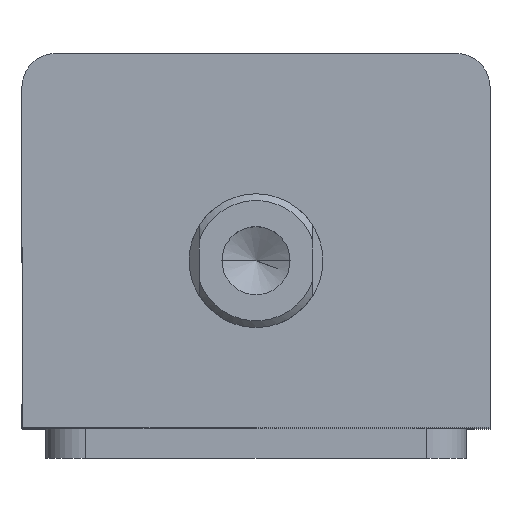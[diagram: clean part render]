
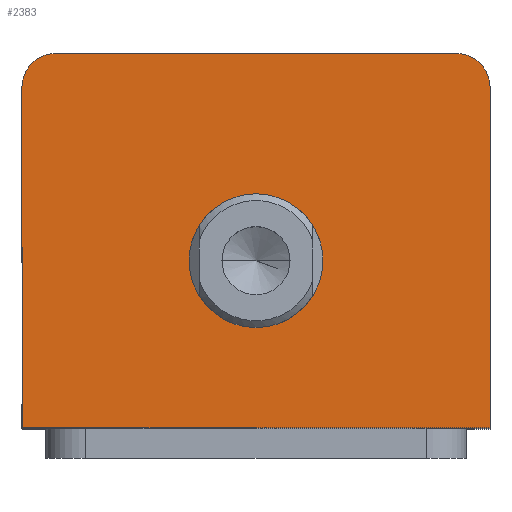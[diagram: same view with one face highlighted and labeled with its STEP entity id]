
A CAD part, top view. The second image highlights one B-rep face of the part: STEP entity #2383.
In plain terms, the highlighted planar face has unit normal (0, 0, 1).
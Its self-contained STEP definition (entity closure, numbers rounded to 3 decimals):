
#100 = ORIENTED_EDGE ( 'NONE', *, *, #1601, .T. ) ;
#101 = ORIENTED_EDGE ( 'NONE', *, *, #1750, .T. ) ;
#102 = ORIENTED_EDGE ( 'NONE', *, *, #1763, .T. ) ;
#103 = ORIENTED_EDGE ( 'NONE', *, *, #1626, .T. ) ;
#104 = ORIENTED_EDGE ( 'NONE', *, *, #1551, .T. ) ;
#105 = ORIENTED_EDGE ( 'NONE', *, *, #1791, .T. ) ;
#106 = ORIENTED_EDGE ( 'NONE', *, *, #1558, .F. ) ;
#107 = ORIENTED_EDGE ( 'NONE', *, *, #1748, .F. ) ;
#309 = VERTEX_POINT ( 'NONE', #2431 ) ;
#311 = VERTEX_POINT ( 'NONE', #2429 ) ;
#438 = AXIS2_PLACEMENT_3D ( 'NONE', #2228, #2210, #2209 ) ;
#498 = AXIS2_PLACEMENT_3D ( 'NONE', #1181, #1180, #1179 ) ;
#558 = CIRCLE ( 'NONE', #1697, 10. ) ;
#619 = LINE ( 'NONE', #1416, #625 ) ;
#625 = VECTOR ( 'NONE', #1424, 1000. ) ;
#660 = LINE ( 'NONE', #1317, #662 ) ;
#662 = VECTOR ( 'NONE', #1316, 1000. ) ;
#731 = LINE ( 'NONE', #873, #738 ) ;
#733 = CIRCLE ( 'NONE', #1650, 10. ) ;
#738 = VECTOR ( 'NONE', #907, 1000. ) ;
#755 = CIRCLE ( 'NONE', #498, 5. ) ;
#798 = LINE ( 'NONE', #1090, #800 ) ;
#800 = VECTOR ( 'NONE', #1087, 1000. ) ;
#873 = CARTESIAN_POINT ( 'NONE',  ( -35., 28., 109. ) ) ;
#885 = DIRECTION ( 'NONE',  ( 1., 0., 0. ) ) ;
#886 = DIRECTION ( 'NONE',  ( 0., 0., 1. ) ) ;
#888 = CARTESIAN_POINT ( 'NONE',  ( 0., -3., 109. ) ) ;
#907 = DIRECTION ( 'NONE',  ( 0., -1., 0. ) ) ;
#1087 = DIRECTION ( 'NONE',  ( 0., 1., 0. ) ) ;
#1090 = CARTESIAN_POINT ( 'NONE',  ( 35., 28., 109. ) ) ;
#1179 = DIRECTION ( 'NONE',  ( 1., 0., 0. ) ) ;
#1180 = DIRECTION ( 'NONE',  ( 0., 0., 1. ) ) ;
#1181 = CARTESIAN_POINT ( 'NONE',  ( -30., 23., 109. ) ) ;
#1316 = DIRECTION ( 'NONE',  ( -1., 0., 0. ) ) ;
#1317 = CARTESIAN_POINT ( 'NONE',  ( -35., 28., 109. ) ) ;
#1416 = CARTESIAN_POINT ( 'NONE',  ( -35., -28., 109. ) ) ;
#1424 = DIRECTION ( 'NONE',  ( 1., 0., 0. ) ) ;
#1485 = DIRECTION ( 'NONE',  ( 1., 0., 0. ) ) ;
#1486 = DIRECTION ( 'NONE',  ( 0., 0., 1. ) ) ;
#1487 = CARTESIAN_POINT ( 'NONE',  ( 0., -3., 109. ) ) ;
#1508 = DIRECTION ( 'NONE',  ( 1., 0., 0. ) ) ;
#1509 = DIRECTION ( 'NONE',  ( 0., 0., 1. ) ) ;
#1511 = CARTESIAN_POINT ( 'NONE',  ( 30., 23., 109. ) ) ;
#1551 = EDGE_CURVE ( 'NONE', #2855, #2832, #3066, .T. ) ;
#1558 = EDGE_CURVE ( 'NONE', #311, #309, #558, .T. ) ;
#1601 = EDGE_CURVE ( 'NONE', #2789, #2817, #619, .T. ) ;
#1626 = EDGE_CURVE ( 'NONE', #2832, #2835, #660, .T. ) ;
#1650 = AXIS2_PLACEMENT_3D ( 'NONE', #888, #886, #885 ) ;
#1697 = AXIS2_PLACEMENT_3D ( 'NONE', #1487, #1486, #1485 ) ;
#1702 = AXIS2_PLACEMENT_3D ( 'NONE', #1511, #1509, #1508 ) ;
#1748 = EDGE_CURVE ( 'NONE', #309, #311, #733, .T. ) ;
#1750 = EDGE_CURVE ( 'NONE', #2858, #2789, #731, .T. ) ;
#1763 = EDGE_CURVE ( 'NONE', #2835, #2858, #755, .T. ) ;
#1791 = EDGE_CURVE ( 'NONE', #2817, #2855, #798, .T. ) ;
#2033 = CARTESIAN_POINT ( 'NONE',  ( -35., 23., 109. ) ) ;
#2037 = CARTESIAN_POINT ( 'NONE',  ( 35., 23., 109. ) ) ;
#2065 = CARTESIAN_POINT ( 'NONE',  ( -30., 28., 109. ) ) ;
#2068 = CARTESIAN_POINT ( 'NONE',  ( 30., 28., 109. ) ) ;
#2089 = CARTESIAN_POINT ( 'NONE',  ( 35., -28., 109. ) ) ;
#2129 = CARTESIAN_POINT ( 'NONE',  ( -35., -28., 109. ) ) ;
#2209 = DIRECTION ( 'NONE',  ( 1., 0., 0. ) ) ;
#2210 = DIRECTION ( 'NONE',  ( 0., 0., 1. ) ) ;
#2218 = PLANE ( 'NONE',  #438 ) ;
#2228 = CARTESIAN_POINT ( 'NONE',  ( 0., 0., 109. ) ) ;
#2383 = ADVANCED_FACE ( 'NONE', ( #2659, #2670 ), #2218, .T. ) ;
#2429 = CARTESIAN_POINT ( 'NONE',  ( -10., -3., 109. ) ) ;
#2431 = CARTESIAN_POINT ( 'NONE',  ( 10., -3., 109. ) ) ;
#2659 = FACE_BOUND ( 'NONE', #2956, .T. ) ;
#2670 = FACE_OUTER_BOUND ( 'NONE', #3006, .T. ) ;
#2789 = VERTEX_POINT ( 'NONE', #2129 ) ;
#2817 = VERTEX_POINT ( 'NONE', #2089 ) ;
#2832 = VERTEX_POINT ( 'NONE', #2068 ) ;
#2835 = VERTEX_POINT ( 'NONE', #2065 ) ;
#2855 = VERTEX_POINT ( 'NONE', #2037 ) ;
#2858 = VERTEX_POINT ( 'NONE', #2033 ) ;
#2956 = EDGE_LOOP ( 'NONE', ( #107, #106 ) ) ;
#3006 = EDGE_LOOP ( 'NONE', ( #105, #104, #103, #102, #101, #100 ) ) ;
#3066 = CIRCLE ( 'NONE', #1702, 5. ) ;
